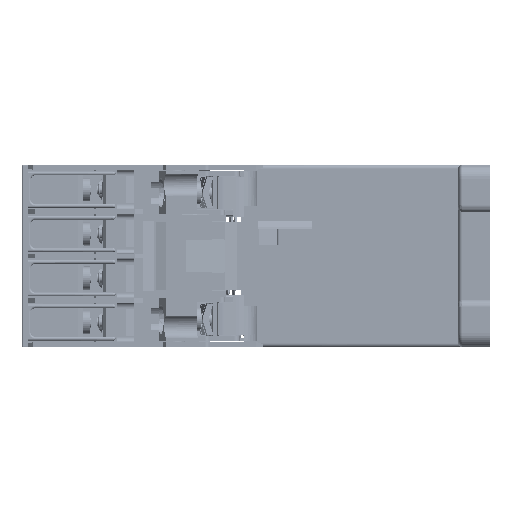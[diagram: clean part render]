
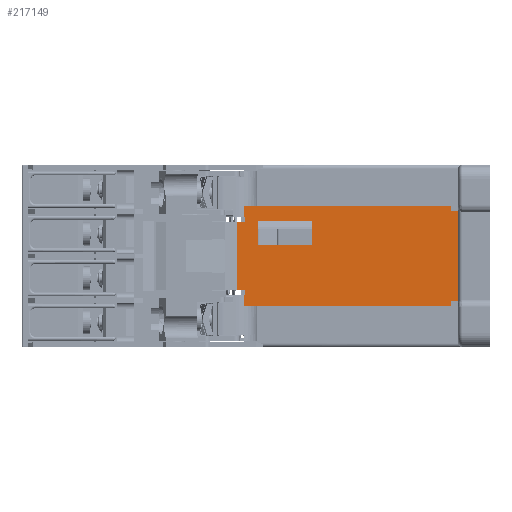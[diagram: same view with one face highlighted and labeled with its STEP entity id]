
A CAD part, left-side view. The second image highlights one B-rep face of the part: STEP entity #217149.
In plain terms, the highlighted planar face has unit normal (-1, 0, 0).
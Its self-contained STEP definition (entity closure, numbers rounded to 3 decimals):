
#74976=DIRECTION('',(0.,1.,0.));
#74977=VECTOR('',#74976,0.07);
#74978=CARTESIAN_POINT('',(-32.4,3.1,9.65));
#74979=LINE('',#74978,#74977);
#75469=DIRECTION('',(0.,0.,1.));
#75470=VECTOR('',#75469,2.75);
#75471=CARTESIAN_POINT('',(-32.4,3.17,9.65));
#75472=LINE('',#75471,#75470);
#76945=DIRECTION('',(0.,-1.,0.));
#76946=VECTOR('',#76945,50.77);
#76947=CARTESIAN_POINT('',(-32.4,3.17,12.4));
#76948=LINE('',#76947,#76946);
#77654=DIRECTION('',(0.,-1.,0.));
#77655=VECTOR('',#77654,0.07);
#77656=CARTESIAN_POINT('',(-32.4,3.17,-9.65));
#77657=LINE('',#77656,#77655);
#77676=DIRECTION('',(0.,0.,1.));
#77677=VECTOR('',#77676,1.25);
#77678=CARTESIAN_POINT('',(-32.4,3.1,-9.65));
#77679=LINE('',#77678,#77677);
#77704=DIRECTION('',(0.,1.,0.));
#77705=VECTOR('',#77704,2.);
#77706=CARTESIAN_POINT('',(-32.4,3.1,-8.4));
#77707=LINE('',#77706,#77705);
#77724=DIRECTION('',(0.,-1.,0.));
#77725=VECTOR('',#77724,2.);
#77726=CARTESIAN_POINT('',(-32.4,5.1,8.4));
#77727=LINE('',#77726,#77725);
#77760=DIRECTION('',(0.,0.,1.));
#77761=VECTOR('',#77760,1.25);
#77762=CARTESIAN_POINT('',(-32.4,3.1,8.4));
#77763=LINE('',#77762,#77761);
#77764=DIRECTION('',(0.,0.,1.));
#77765=VECTOR('',#77764,8.85);
#77766=CARTESIAN_POINT('',(-32.4,-49.5,2.25));
#77767=LINE('',#77766,#77765);
#77768=DIRECTION('',(0.,1.,0.));
#77769=VECTOR('',#77768,1.8);
#77770=CARTESIAN_POINT('',(-32.4,-51.3,2.25));
#77771=LINE('',#77770,#77769);
#77772=DIRECTION('',(0.,0.,1.));
#77773=VECTOR('',#77772,4.5);
#77774=CARTESIAN_POINT('',(-32.4,-51.3,-2.25));
#77775=LINE('',#77774,#77773);
#77776=DIRECTION('',(0.,0.,1.));
#77777=VECTOR('',#77776,8.85);
#77778=CARTESIAN_POINT('',(-32.4,-49.5,-11.1));
#77779=LINE('',#77778,#77777);
#77780=DIRECTION('',(0.,-1.,0.));
#77781=VECTOR('',#77780,50.77);
#77782=CARTESIAN_POINT('',(-32.4,3.17,-12.4));
#77783=LINE('',#77782,#77781);
#77784=DIRECTION('',(0.,0.,-1.));
#77785=VECTOR('',#77784,16.8);
#77786=CARTESIAN_POINT('',(-32.4,5.1,8.4));
#77787=LINE('',#77786,#77785);
#77796=DIRECTION('',(0.,-1.,0.));
#77797=VECTOR('',#77796,1.9);
#77798=CARTESIAN_POINT('',(-32.4,-47.6,11.1));
#77799=LINE('',#77798,#77797);
#77812=DIRECTION('',(0.,0.,-1.));
#77813=VECTOR('',#77812,1.3);
#77814=CARTESIAN_POINT('',(-32.4,-47.6,12.4));
#77815=LINE('',#77814,#77813);
#78194=DIRECTION('',(0.,1.,0.));
#78195=VECTOR('',#78194,1.8);
#78196=CARTESIAN_POINT('',(-32.4,-51.3,-2.25));
#78197=LINE('',#78196,#78195);
#78198=DIRECTION('',(0.,1.,0.));
#78199=VECTOR('',#78198,1.9);
#78200=CARTESIAN_POINT('',(-32.4,-49.5,-11.1));
#78201=LINE('',#78200,#78199);
#78255=DIRECTION('',(0.,0.,1.));
#78256=VECTOR('',#78255,2.75);
#78257=CARTESIAN_POINT('',(-32.4,3.17,-12.4));
#78258=LINE('',#78257,#78256);
#78313=DIRECTION('',(0.,0.,-1.));
#78314=VECTOR('',#78313,1.3);
#78315=CARTESIAN_POINT('',(-32.4,-47.6,-11.1));
#78316=LINE('',#78315,#78314);
#78734=DIRECTION('',(0.,-1.,0.));
#78735=VECTOR('',#78734,13.25);
#78736=CARTESIAN_POINT('',(-32.4,-0.3,2.6));
#78737=LINE('',#78736,#78735);
#78746=DIRECTION('',(0.,0.,1.));
#78747=VECTOR('',#78746,6.);
#78748=CARTESIAN_POINT('',(-32.4,-13.55,2.6));
#78749=LINE('',#78748,#78747);
#78758=DIRECTION('',(0.,1.,0.));
#78759=VECTOR('',#78758,13.25);
#78760=CARTESIAN_POINT('',(-32.4,-13.55,8.6));
#78761=LINE('',#78760,#78759);
#78770=DIRECTION('',(0.,0.,-1.));
#78771=VECTOR('',#78770,6.);
#78772=CARTESIAN_POINT('',(-32.4,-0.3,8.6));
#78773=LINE('',#78772,#78771);
#128490=CARTESIAN_POINT('',(-32.4,-47.6,12.4));
#128491=VERTEX_POINT('',#128490);
#128492=CARTESIAN_POINT('',(-32.4,-47.6,11.1));
#128493=VERTEX_POINT('',#128492);
#128496=CARTESIAN_POINT('',(-32.4,-49.5,11.1));
#128497=VERTEX_POINT('',#128496);
#128500=CARTESIAN_POINT('',(-32.4,3.17,12.4));
#128501=VERTEX_POINT('',#128500);
#128502=CARTESIAN_POINT('',(-32.4,3.17,9.65));
#128503=VERTEX_POINT('',#128502);
#128504=CARTESIAN_POINT('',(-32.4,3.1,9.65));
#128505=VERTEX_POINT('',#128504);
#128506=CARTESIAN_POINT('',(-32.4,3.1,8.4));
#128507=VERTEX_POINT('',#128506);
#128508=CARTESIAN_POINT('',(-32.4,5.1,8.4));
#128509=VERTEX_POINT('',#128508);
#128510=CARTESIAN_POINT('',(-32.4,5.1,-8.4));
#128511=VERTEX_POINT('',#128510);
#128512=CARTESIAN_POINT('',(-32.4,3.1,-8.4));
#128513=VERTEX_POINT('',#128512);
#128514=CARTESIAN_POINT('',(-32.4,3.1,-9.65));
#128515=VERTEX_POINT('',#128514);
#128516=CARTESIAN_POINT('',(-32.4,3.17,-9.65));
#128517=VERTEX_POINT('',#128516);
#128518=CARTESIAN_POINT('',(-32.4,3.17,-12.4));
#128519=VERTEX_POINT('',#128518);
#128520=CARTESIAN_POINT('',(-32.4,-47.6,-12.4));
#128521=VERTEX_POINT('',#128520);
#128522=CARTESIAN_POINT('',(-32.4,-47.6,-11.1));
#128523=VERTEX_POINT('',#128522);
#128524=CARTESIAN_POINT('',(-32.4,-49.5,-11.1));
#128525=VERTEX_POINT('',#128524);
#128526=CARTESIAN_POINT('',(-32.4,-49.5,-2.25));
#128527=VERTEX_POINT('',#128526);
#128528=CARTESIAN_POINT('',(-32.4,-51.3,-2.25));
#128529=VERTEX_POINT('',#128528);
#128530=CARTESIAN_POINT('',(-32.4,-51.3,2.25));
#128531=VERTEX_POINT('',#128530);
#128532=CARTESIAN_POINT('',(-32.4,-49.5,2.25));
#128533=VERTEX_POINT('',#128532);
#128534=CARTESIAN_POINT('',(-32.4,-0.3,2.6));
#128535=CARTESIAN_POINT('',(-32.4,-13.55,2.6));
#128536=VERTEX_POINT('',#128534);
#128537=VERTEX_POINT('',#128535);
#128538=CARTESIAN_POINT('',(-32.4,-0.3,8.6));
#128539=VERTEX_POINT('',#128538);
#128540=CARTESIAN_POINT('',(-32.4,-13.55,8.6));
#128541=VERTEX_POINT('',#128540);
#217102=CARTESIAN_POINT('',(-32.4,-49.5,12.4));
#217103=DIRECTION('',(-1.,0.,0.));
#217104=DIRECTION('',(0.,0.,1.));
#217105=AXIS2_PLACEMENT_3D('',#217102,#217103,#217104);
#217106=PLANE('',#217105);
#217108=ORIENTED_EDGE('',*,*,#217107,.T.);
#217109=ORIENTED_EDGE('',*,*,#216580,.F.);
#217111=ORIENTED_EDGE('',*,*,#217110,.F.);
#217113=ORIENTED_EDGE('',*,*,#217112,.F.);
#217115=ORIENTED_EDGE('',*,*,#217114,.T.);
#217116=ORIENTED_EDGE('',*,*,#216572,.F.);
#217118=ORIENTED_EDGE('',*,*,#217117,.T.);
#217120=ORIENTED_EDGE('',*,*,#217119,.T.);
#217122=ORIENTED_EDGE('',*,*,#217121,.F.);
#217124=ORIENTED_EDGE('',*,*,#217123,.T.);
#217125=ORIENTED_EDGE('',*,*,#217004,.T.);
#217126=ORIENTED_EDGE('',*,*,#217024,.T.);
#217127=ORIENTED_EDGE('',*,*,#217046,.T.);
#217129=ORIENTED_EDGE('',*,*,#217128,.F.);
#217130=ORIENTED_EDGE('',*,*,#217074,.T.);
#217131=ORIENTED_EDGE('',*,*,#217097,.T.);
#217132=ORIENTED_EDGE('',*,*,#213563,.T.);
#217133=ORIENTED_EDGE('',*,*,#214255,.T.);
#217134=ORIENTED_EDGE('',*,*,#216193,.T.);
#217136=ORIENTED_EDGE('',*,*,#217135,.T.);
#217137=EDGE_LOOP('',(#217108,#217109,#217111,#217113,#217115,#217116,#217118,
#217120,#217122,#217124,#217125,#217126,#217127,#217129,#217130,#217131,#217132,
#217133,#217134,#217136));
#217138=FACE_OUTER_BOUND('',#217137,.F.);
#217140=ORIENTED_EDGE('',*,*,#217139,.T.);
#217142=ORIENTED_EDGE('',*,*,#217141,.T.);
#217144=ORIENTED_EDGE('',*,*,#217143,.T.);
#217146=ORIENTED_EDGE('',*,*,#217145,.T.);
#217147=EDGE_LOOP('',(#217140,#217142,#217144,#217146));
#217148=FACE_BOUND('',#217147,.F.);
#217149=ADVANCED_FACE('',(#217138,#217148),#217106,.T.);
#213563=EDGE_CURVE('',#128505,#128503,#74979,.T.);
#214255=EDGE_CURVE('',#128503,#128501,#75472,.T.);
#216193=EDGE_CURVE('',#128501,#128491,#76948,.T.);
#216572=EDGE_CURVE('',#128525,#128527,#77779,.T.);
#216580=EDGE_CURVE('',#128533,#128497,#77767,.T.);
#217004=EDGE_CURVE('',#128517,#128515,#77657,.T.);
#217024=EDGE_CURVE('',#128515,#128513,#77679,.T.);
#217046=EDGE_CURVE('',#128513,#128511,#77707,.T.);
#217074=EDGE_CURVE('',#128509,#128507,#77727,.T.);
#217097=EDGE_CURVE('',#128507,#128505,#77763,.T.);
#217107=EDGE_CURVE('',#128493,#128497,#77799,.T.);
#217110=EDGE_CURVE('',#128531,#128533,#77771,.T.);
#217112=EDGE_CURVE('',#128529,#128531,#77775,.T.);
#217114=EDGE_CURVE('',#128529,#128527,#78197,.T.);
#217117=EDGE_CURVE('',#128525,#128523,#78201,.T.);
#217119=EDGE_CURVE('',#128523,#128521,#78316,.T.);
#217121=EDGE_CURVE('',#128519,#128521,#77783,.T.);
#217123=EDGE_CURVE('',#128519,#128517,#78258,.T.);
#217128=EDGE_CURVE('',#128509,#128511,#77787,.T.);
#217135=EDGE_CURVE('',#128491,#128493,#77815,.T.);
#217139=EDGE_CURVE('',#128536,#128537,#78737,.T.);
#217141=EDGE_CURVE('',#128537,#128541,#78749,.T.);
#217143=EDGE_CURVE('',#128541,#128539,#78761,.T.);
#217145=EDGE_CURVE('',#128539,#128536,#78773,.T.);
